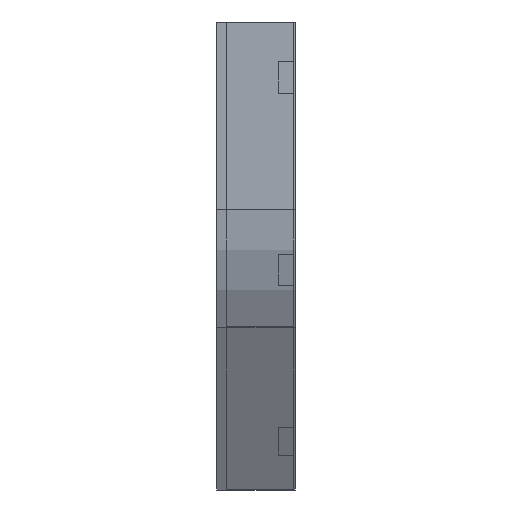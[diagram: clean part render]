
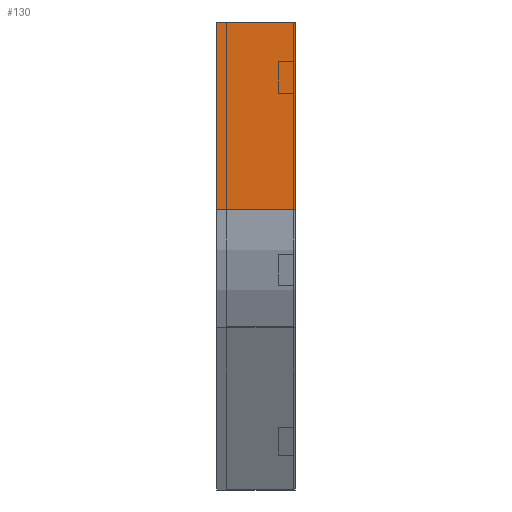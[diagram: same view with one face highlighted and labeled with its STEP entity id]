
A CAD part, left-side view. The second image highlights one B-rep face of the part: STEP entity #130.
In plain terms, the highlighted planar face has unit normal (-1, 0, 0).
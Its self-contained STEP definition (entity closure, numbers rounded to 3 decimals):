
#9 = EDGE_CURVE ( 'NONE', #1181, #443, #68, .T. ) ;
#45 = DIRECTION ( 'NONE',  ( 0., 0., -1. ) ) ;
#53 = VECTOR ( 'NONE', #1357, 1000. ) ;
#68 = LINE ( 'NONE', #1624, #1816 ) ;
#85 = LINE ( 'NONE', #216, #53 ) ;
#130 = ADVANCED_FACE ( 'NONE', ( #598 ), #1024, .F. ) ;
#206 = EDGE_CURVE ( 'NONE', #1535, #1482, #305, .T. ) ;
#216 = CARTESIAN_POINT ( 'NONE',  ( 0., 0., 0. ) ) ;
#254 = CARTESIAN_POINT ( 'NONE',  ( 0., 0., -237.564 ) ) ;
#255 = ORIENTED_EDGE ( 'NONE', *, *, #9, .F. ) ;
#305 = LINE ( 'NONE', #1314, #1760 ) ;
#405 = ORIENTED_EDGE ( 'NONE', *, *, #937, .T. ) ;
#443 = VERTEX_POINT ( 'NONE', #254 ) ;
#576 = EDGE_CURVE ( 'NONE', #1535, #1181, #85, .T. ) ;
#598 = FACE_OUTER_BOUND ( 'NONE', #1684, .T. ) ;
#644 = DIRECTION ( 'NONE',  ( 0., -1., 0. ) ) ;
#691 = ORIENTED_EDGE ( 'NONE', *, *, #576, .F. ) ;
#937 = EDGE_CURVE ( 'NONE', #1482, #443, #1237, .T. ) ;
#1024 = PLANE ( 'NONE',  #1156 ) ;
#1156 = AXIS2_PLACEMENT_3D ( 'NONE', #1454, #1477, #1766 ) ;
#1160 = VECTOR ( 'NONE', #644, 1000. ) ;
#1181 = VERTEX_POINT ( 'NONE', #1192 ) ;
#1192 = CARTESIAN_POINT ( 'NONE',  ( 0., 0., 0. ) ) ;
#1237 = LINE ( 'NONE', #1362, #1160 ) ;
#1303 = CARTESIAN_POINT ( 'NONE',  ( 0., 100., 0. ) ) ;
#1314 = CARTESIAN_POINT ( 'NONE',  ( 0., 100., 0. ) ) ;
#1357 = DIRECTION ( 'NONE',  ( 0., -1., 0. ) ) ;
#1362 = CARTESIAN_POINT ( 'NONE',  ( 0., 0., -237.564 ) ) ;
#1454 = CARTESIAN_POINT ( 'NONE',  ( 0., 0., 0. ) ) ;
#1477 = DIRECTION ( 'NONE',  ( 1., 0., 0. ) ) ;
#1481 = DIRECTION ( 'NONE',  ( 0., 0., -1. ) ) ;
#1482 = VERTEX_POINT ( 'NONE', #1694 ) ;
#1535 = VERTEX_POINT ( 'NONE', #1303 ) ;
#1624 = CARTESIAN_POINT ( 'NONE',  ( 0., 0., 0. ) ) ;
#1652 = ORIENTED_EDGE ( 'NONE', *, *, #206, .T. ) ;
#1684 = EDGE_LOOP ( 'NONE', ( #255, #691, #1652, #405 ) ) ;
#1694 = CARTESIAN_POINT ( 'NONE',  ( 0., 100., -237.564 ) ) ;
#1760 = VECTOR ( 'NONE', #45, 1000. ) ;
#1766 = DIRECTION ( 'NONE',  ( 0., 0., -1. ) ) ;
#1816 = VECTOR ( 'NONE', #1481, 1000. ) ;
